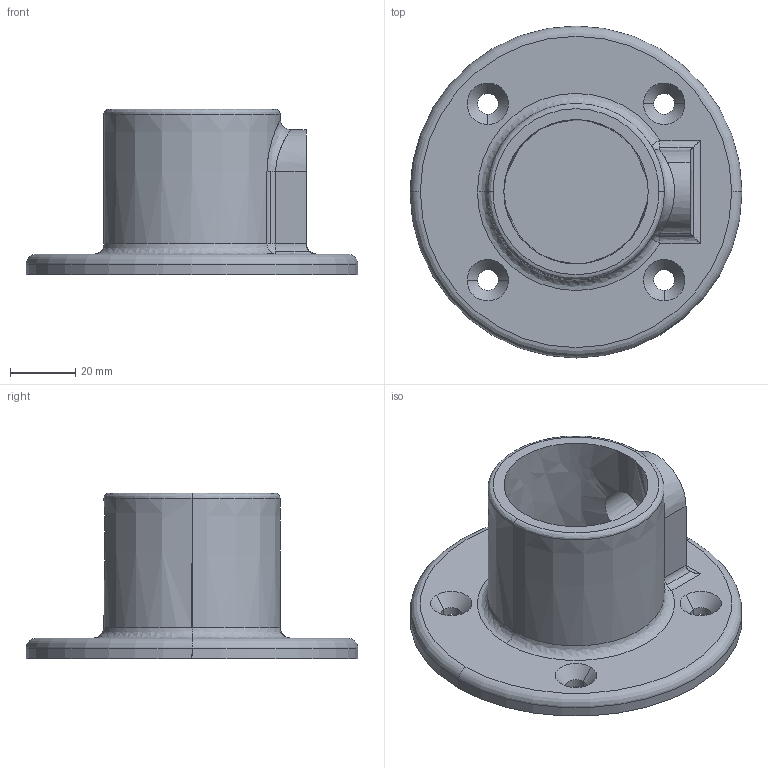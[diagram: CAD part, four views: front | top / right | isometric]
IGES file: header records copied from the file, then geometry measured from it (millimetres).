
Global section: file name: C:\Documents and Settings\Administrator\Desktop\Transfer Temp\61-7.igs; native system: AutoDesk Inventor R2.0 ; preprocessor: AutoDesk Inventor Iges Exporter R2.0; author: No Author specified; organization: No Organization specified; date: 20011231.175651; units: inch
Bounding box: 101.6 x 101.6 x 50.8 mm (x, y, z)
Surface area: 32212.5 mm2 (no closed solid volume)
Topology: 0 solids, 0 shells, 52 faces, 244 edges, 242 vertices
Faces by surface type: bspline 32, revolution 20
